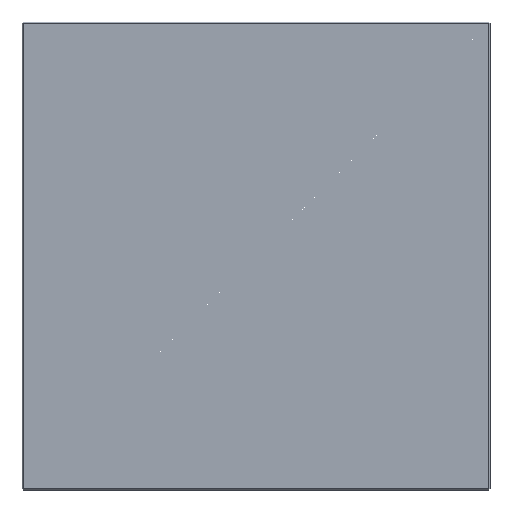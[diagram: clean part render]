
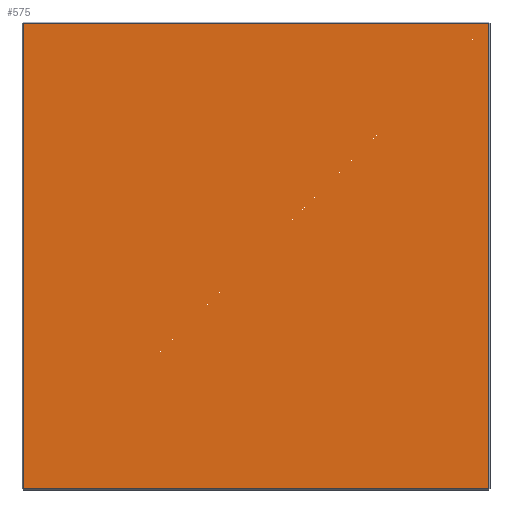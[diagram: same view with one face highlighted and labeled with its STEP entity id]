
A CAD part, front view. The second image highlights one B-rep face of the part: STEP entity #575.
In plain terms, the highlighted planar face has unit normal (0, -1, 0).
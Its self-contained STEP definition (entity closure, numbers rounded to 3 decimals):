
#11 = ORIENTED_EDGE ( 'NONE', *, *, #404, .T. ) ;
#23 = LINE ( 'NONE', #353, #485 ) ;
#52 = EDGE_CURVE ( 'NONE', #229, #644, #23, .T. ) ;
#75 = CARTESIAN_POINT ( 'NONE',  ( -172., 0., 0. ) ) ;
#85 = VERTEX_POINT ( 'NONE', #405 ) ;
#93 = DIRECTION ( 'NONE',  ( 0., 0., 1. ) ) ;
#103 = DIRECTION ( 'NONE',  ( 0., 0., 1. ) ) ;
#119 = PLANE ( 'NONE',  #554 ) ;
#165 = VECTOR ( 'NONE', #437, 1000. ) ;
#195 = VECTOR ( 'NONE', #454, 1000. ) ;
#205 = EDGE_LOOP ( 'NONE', ( #260, #403, #11, #550 ) ) ;
#207 = CARTESIAN_POINT ( 'NONE',  ( 0., 0., 0. ) ) ;
#213 = CARTESIAN_POINT ( 'NONE',  ( -172., 0., -172. ) ) ;
#214 = CARTESIAN_POINT ( 'NONE',  ( 172., 0., -172. ) ) ;
#228 = LINE ( 'NONE', #537, #240 ) ;
#229 = VERTEX_POINT ( 'NONE', #214 ) ;
#240 = VECTOR ( 'NONE', #565, 1000. ) ;
#260 = ORIENTED_EDGE ( 'NONE', *, *, #52, .T. ) ;
#305 = LINE ( 'NONE', #434, #165 ) ;
#343 = LINE ( 'NONE', #75, #195 ) ;
#353 = CARTESIAN_POINT ( 'NONE',  ( 172., 0., 0. ) ) ;
#371 = CARTESIAN_POINT ( 'NONE',  ( 172., 0., 172. ) ) ;
#403 = ORIENTED_EDGE ( 'NONE', *, *, #622, .T. ) ;
#404 = EDGE_CURVE ( 'NONE', #85, #514, #343, .T. ) ;
#405 = CARTESIAN_POINT ( 'NONE',  ( -172., 0., 172. ) ) ;
#434 = CARTESIAN_POINT ( 'NONE',  ( 0., 0., -172. ) ) ;
#437 = DIRECTION ( 'NONE',  ( 1., 0., 0. ) ) ;
#442 = EDGE_CURVE ( 'NONE', #514, #229, #305, .T. ) ;
#454 = DIRECTION ( 'NONE',  ( 0., 0., -1. ) ) ;
#465 = FACE_OUTER_BOUND ( 'NONE', #205, .T. ) ;
#485 = VECTOR ( 'NONE', #103, 1000. ) ;
#514 = VERTEX_POINT ( 'NONE', #213 ) ;
#535 = DIRECTION ( 'NONE',  ( 0., 1., 0. ) ) ;
#537 = CARTESIAN_POINT ( 'NONE',  ( 0., 0., 172. ) ) ;
#550 = ORIENTED_EDGE ( 'NONE', *, *, #442, .T. ) ;
#554 = AXIS2_PLACEMENT_3D ( 'NONE', #207, #535, #93 ) ;
#565 = DIRECTION ( 'NONE',  ( -1., 0., 0. ) ) ;
#575 = ADVANCED_FACE ( 'NONE', ( #465 ), #119, .F. ) ;
#622 = EDGE_CURVE ( 'NONE', #644, #85, #228, .T. ) ;
#644 = VERTEX_POINT ( 'NONE', #371 ) ;
